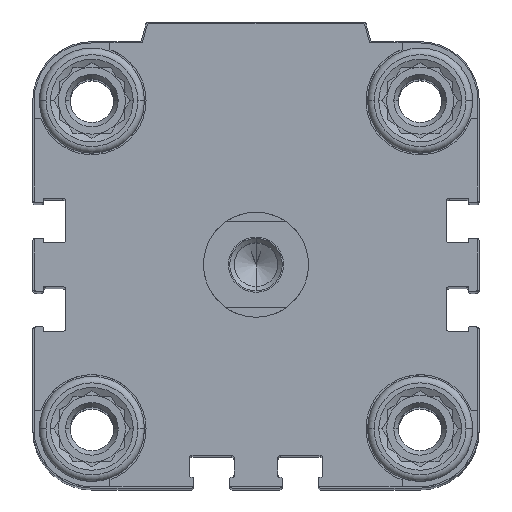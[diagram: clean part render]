
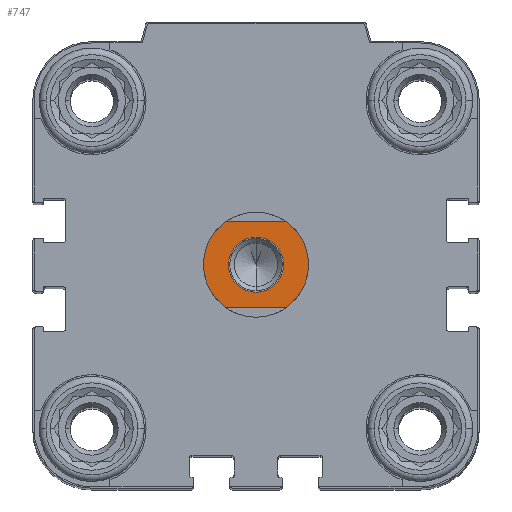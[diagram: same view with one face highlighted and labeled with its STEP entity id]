
A CAD part, top view. The second image highlights one B-rep face of the part: STEP entity #747.
In plain terms, the highlighted planar face has unit normal (0, 0, 1).
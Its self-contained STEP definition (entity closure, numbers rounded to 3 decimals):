
#175 = DIRECTION ( 'NONE',  ( 0., 0., -1. ) ) ;
#187 = CIRCLE ( 'NONE', #18815, 8. ) ;
#243 = VERTEX_POINT ( 'NONE', #426 ) ;
#426 = CARTESIAN_POINT ( 'NONE',  ( 0., -4.2, 7.5 ) ) ;
#747 = ADVANCED_FACE ( 'NONE', ( #15724, #20982 ), #10569, .F. ) ;
#782 = CIRCLE ( 'NONE', #13564, 8. ) ;
#837 = ORIENTED_EDGE ( 'NONE', *, *, #5777, .T. ) ;
#1262 = VERTEX_POINT ( 'NONE', #7579 ) ;
#1847 = EDGE_CURVE ( 'NONE', #21668, #20662, #187, .T. ) ;
#1877 = DIRECTION ( 'NONE',  ( 0., 1., 0. ) ) ;
#2183 = CARTESIAN_POINT ( 'NONE',  ( 0., 0., 7.5 ) ) ;
#2675 = VERTEX_POINT ( 'NONE', #7595 ) ;
#3083 = EDGE_CURVE ( 'NONE', #243, #2675, #19936, .T. ) ;
#3125 = CARTESIAN_POINT ( 'NONE',  ( 0., 0., 7.5 ) ) ;
#3536 = ORIENTED_EDGE ( 'NONE', *, *, #7366, .F. ) ;
#3826 = LINE ( 'NONE', #4896, #8204 ) ;
#3912 = CARTESIAN_POINT ( 'NONE',  ( -4.664, 6.5, 7.5 ) ) ;
#4423 = CARTESIAN_POINT ( 'NONE',  ( 8., 0., 7.5 ) ) ;
#4896 = CARTESIAN_POINT ( 'NONE',  ( -13., 6.5, 7.5 ) ) ;
#5271 = EDGE_CURVE ( 'NONE', #20662, #9876, #17684, .T. ) ;
#5319 = CARTESIAN_POINT ( 'NONE',  ( 0., 0., 7.5 ) ) ;
#5777 = EDGE_CURVE ( 'NONE', #2675, #243, #21741, .T. ) ;
#5828 = DIRECTION ( 'NONE',  ( 0., 0., -1. ) ) ;
#5838 = DIRECTION ( 'NONE',  ( 0., 1., 0. ) ) ;
#5951 = VERTEX_POINT ( 'NONE', #3912 ) ;
#6042 = AXIS2_PLACEMENT_3D ( 'NONE', #3125, #16969, #18563 ) ;
#6735 = AXIS2_PLACEMENT_3D ( 'NONE', #20528, #22132, #22468 ) ;
#7366 = EDGE_CURVE ( 'NONE', #9876, #17541, #16806, .T. ) ;
#7579 = CARTESIAN_POINT ( 'NONE',  ( -8., 0., 7.5 ) ) ;
#7595 = CARTESIAN_POINT ( 'NONE',  ( 0., 4.2, 7.5 ) ) ;
#7803 = AXIS2_PLACEMENT_3D ( 'NONE', #5319, #17547, #1877 ) ;
#8204 = VECTOR ( 'NONE', #12090, 1000. ) ;
#8818 = VECTOR ( 'NONE', #14870, 1000. ) ;
#8819 = CARTESIAN_POINT ( 'NONE',  ( 0., 0., 7.5 ) ) ;
#9093 = ORIENTED_EDGE ( 'NONE', *, *, #15684, .F. ) ;
#9381 = CARTESIAN_POINT ( 'NONE',  ( 0., 0., 7.5 ) ) ;
#9876 = VERTEX_POINT ( 'NONE', #11893 ) ;
#10532 = DIRECTION ( 'NONE',  ( -1., 0., 0. ) ) ;
#10569 = PLANE ( 'NONE',  #7803 ) ;
#11876 = EDGE_CURVE ( 'NONE', #5951, #21668, #3826, .T. ) ;
#11893 = CARTESIAN_POINT ( 'NONE',  ( 4.664, -6.5, 7.5 ) ) ;
#12090 = DIRECTION ( 'NONE',  ( 1., 0., 0. ) ) ;
#12797 = ORIENTED_EDGE ( 'NONE', *, *, #1847, .F. ) ;
#12806 = DIRECTION ( 'NONE',  ( -1., 0., 0. ) ) ;
#12918 = CARTESIAN_POINT ( 'NONE',  ( -4.664, -6.5, 7.5 ) ) ;
#13564 = AXIS2_PLACEMENT_3D ( 'NONE', #8819, #13850, #10532 ) ;
#13728 = AXIS2_PLACEMENT_3D ( 'NONE', #2183, #16137, #5838 ) ;
#13850 = DIRECTION ( 'NONE',  ( 0., 0., -1. ) ) ;
#13940 = ORIENTED_EDGE ( 'NONE', *, *, #14046, .F. ) ;
#14011 = ORIENTED_EDGE ( 'NONE', *, *, #11876, .F. ) ;
#14046 = EDGE_CURVE ( 'NONE', #1262, #5951, #14240, .T. ) ;
#14240 = CIRCLE ( 'NONE', #16075, 8. ) ;
#14870 = DIRECTION ( 'NONE',  ( -1., 0., 0. ) ) ;
#15684 = EDGE_CURVE ( 'NONE', #17541, #1262, #782, .T. ) ;
#15724 = FACE_OUTER_BOUND ( 'NONE', #21560, .T. ) ;
#15765 = ORIENTED_EDGE ( 'NONE', *, *, #3083, .T. ) ;
#16075 = AXIS2_PLACEMENT_3D ( 'NONE', #9381, #5828, #12806 ) ;
#16137 = DIRECTION ( 'NONE',  ( 0., 0., -1. ) ) ;
#16582 = CARTESIAN_POINT ( 'NONE',  ( 13., -6.5, 7.5 ) ) ;
#16806 = LINE ( 'NONE', #16582, #8818 ) ;
#16858 = EDGE_LOOP ( 'NONE', ( #837, #15765 ) ) ;
#16969 = DIRECTION ( 'NONE',  ( 0., 0., -1. ) ) ;
#17541 = VERTEX_POINT ( 'NONE', #12918 ) ;
#17547 = DIRECTION ( 'NONE',  ( 0., 0., -1. ) ) ;
#17551 = DIRECTION ( 'NONE',  ( -1., 0., 0. ) ) ;
#17684 = CIRCLE ( 'NONE', #6735, 8. ) ;
#17819 = ORIENTED_EDGE ( 'NONE', *, *, #5271, .F. ) ;
#18563 = DIRECTION ( 'NONE',  ( 0., 1., 0. ) ) ;
#18815 = AXIS2_PLACEMENT_3D ( 'NONE', #19154, #175, #17551 ) ;
#19154 = CARTESIAN_POINT ( 'NONE',  ( 0., 0., 7.5 ) ) ;
#19936 = CIRCLE ( 'NONE', #13728, 4.2 ) ;
#20260 = CARTESIAN_POINT ( 'NONE',  ( 4.664, 6.5, 7.5 ) ) ;
#20528 = CARTESIAN_POINT ( 'NONE',  ( 0., 0., 7.5 ) ) ;
#20662 = VERTEX_POINT ( 'NONE', #4423 ) ;
#20982 = FACE_BOUND ( 'NONE', #16858, .T. ) ;
#21560 = EDGE_LOOP ( 'NONE', ( #14011, #13940, #9093, #3536, #17819, #12797 ) ) ;
#21668 = VERTEX_POINT ( 'NONE', #20260 ) ;
#21741 = CIRCLE ( 'NONE', #6042, 4.2 ) ;
#22132 = DIRECTION ( 'NONE',  ( 0., 0., -1. ) ) ;
#22468 = DIRECTION ( 'NONE',  ( -1., 0., 0. ) ) ;
